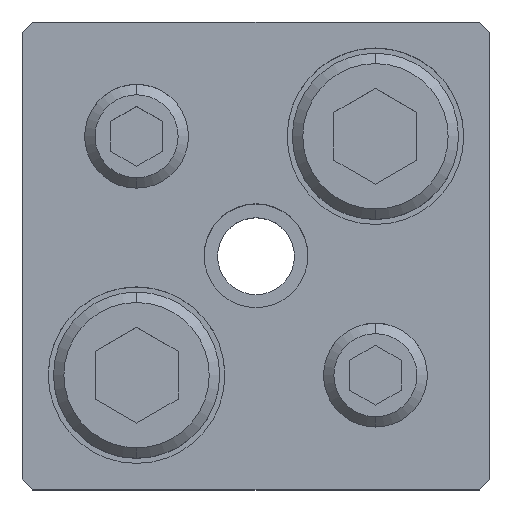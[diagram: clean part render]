
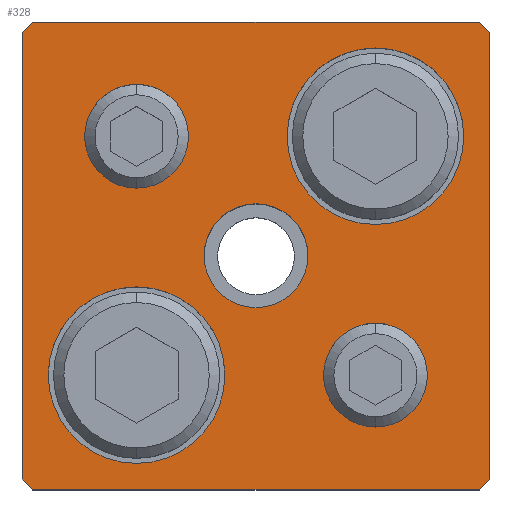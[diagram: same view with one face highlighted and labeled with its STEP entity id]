
A CAD part, top view. The second image highlights one B-rep face of the part: STEP entity #328.
In plain terms, the highlighted planar face has unit normal (0, 0, 1).
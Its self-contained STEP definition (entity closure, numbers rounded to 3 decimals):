
#119=PLANE('',#2702);
#192=FACE_BOUND('',#649,.T.);
#193=FACE_BOUND('',#650,.T.);
#194=FACE_BOUND('',#651,.T.);
#195=FACE_BOUND('',#652,.T.);
#196=FACE_BOUND('',#653,.T.);
#197=FACE_BOUND('',#654,.T.);
#328=ADVANCED_FACE('',(#192,#193,#194,#195,#196,#197),#119,.T.);
#649=EDGE_LOOP('',(#1071,#1072,#1073,#1074,#1075,#1076,#1077,#1078));
#650=EDGE_LOOP('',(#1079,#1080));
#651=EDGE_LOOP('',(#1081,#1082));
#652=EDGE_LOOP('',(#1083,#1084));
#653=EDGE_LOOP('',(#1085,#1086));
#654=EDGE_LOOP('',(#1087,#1088));
#833=CIRCLE('',#2678,5.);
#835=CIRCLE('',#2681,5.);
#837=CIRCLE('',#2684,5.);
#839=CIRCLE('',#2687,5.);
#845=CIRCLE('',#2696,8.5);
#846=CIRCLE('',#2697,8.5);
#847=CIRCLE('',#2698,8.5);
#848=CIRCLE('',#2699,8.5);
#849=CIRCLE('',#2700,5.);
#850=CIRCLE('',#2701,5.);
#1071=ORIENTED_EDGE('',*,*,#1923,.T.);
#1072=ORIENTED_EDGE('',*,*,#1924,.T.);
#1073=ORIENTED_EDGE('',*,*,#1925,.T.);
#1074=ORIENTED_EDGE('',*,*,#1926,.T.);
#1075=ORIENTED_EDGE('',*,*,#1927,.T.);
#1076=ORIENTED_EDGE('',*,*,#1928,.T.);
#1077=ORIENTED_EDGE('',*,*,#1929,.T.);
#1078=ORIENTED_EDGE('',*,*,#1930,.T.);
#1079=ORIENTED_EDGE('',*,*,#1931,.F.);
#1080=ORIENTED_EDGE('',*,*,#1932,.F.);
#1081=ORIENTED_EDGE('',*,*,#1933,.F.);
#1082=ORIENTED_EDGE('',*,*,#1934,.F.);
#1083=ORIENTED_EDGE('',*,*,#1915,.F.);
#1084=ORIENTED_EDGE('',*,*,#1911,.F.);
#1085=ORIENTED_EDGE('',*,*,#1909,.F.);
#1086=ORIENTED_EDGE('',*,*,#1905,.F.);
#1087=ORIENTED_EDGE('',*,*,#1935,.T.);
#1088=ORIENTED_EDGE('',*,*,#1936,.T.);
#1659=VERTEX_POINT('',#3859);
#1660=VERTEX_POINT('',#3860);
#1663=VERTEX_POINT('',#3871);
#1664=VERTEX_POINT('',#3872);
#1671=VERTEX_POINT('',#3895);
#1672=VERTEX_POINT('',#3896);
#1673=VERTEX_POINT('',#3898);
#1674=VERTEX_POINT('',#3900);
#1675=VERTEX_POINT('',#3902);
#1676=VERTEX_POINT('',#3904);
#1677=VERTEX_POINT('',#3906);
#1678=VERTEX_POINT('',#3908);
#1679=VERTEX_POINT('',#3911);
#1680=VERTEX_POINT('',#3912);
#1681=VERTEX_POINT('',#3915);
#1682=VERTEX_POINT('',#3916);
#1683=VERTEX_POINT('',#3919);
#1684=VERTEX_POINT('',#3920);
#1905=EDGE_CURVE('',#1659,#1660,#833,.T.);
#1909=EDGE_CURVE('',#1660,#1659,#835,.T.);
#1911=EDGE_CURVE('',#1663,#1664,#837,.T.);
#1915=EDGE_CURVE('',#1664,#1663,#839,.T.);
#1923=EDGE_CURVE('',#1671,#1672,#2217,.T.);
#1924=EDGE_CURVE('',#1672,#1673,#2218,.T.);
#1925=EDGE_CURVE('',#1673,#1674,#2219,.T.);
#1926=EDGE_CURVE('',#1674,#1675,#2220,.T.);
#1927=EDGE_CURVE('',#1675,#1676,#2221,.T.);
#1928=EDGE_CURVE('',#1676,#1677,#2222,.T.);
#1929=EDGE_CURVE('',#1677,#1678,#2223,.T.);
#1930=EDGE_CURVE('',#1678,#1671,#2224,.T.);
#1931=EDGE_CURVE('',#1679,#1680,#845,.T.);
#1932=EDGE_CURVE('',#1680,#1679,#846,.T.);
#1933=EDGE_CURVE('',#1681,#1682,#847,.T.);
#1934=EDGE_CURVE('',#1682,#1681,#848,.T.);
#1935=EDGE_CURVE('',#1683,#1684,#849,.T.);
#1936=EDGE_CURVE('',#1684,#1683,#850,.T.);
#2217=LINE('',#3894,#2429);
#2218=LINE('',#3897,#2430);
#2219=LINE('',#3899,#2431);
#2220=LINE('',#3901,#2432);
#2221=LINE('',#3903,#2433);
#2222=LINE('',#3905,#2434);
#2223=LINE('',#3907,#2435);
#2224=LINE('',#3909,#2436);
#2429=VECTOR('',#3097,1.);
#2430=VECTOR('',#3098,1.);
#2431=VECTOR('',#3099,1.);
#2432=VECTOR('',#3100,1.);
#2433=VECTOR('',#3101,1.);
#2434=VECTOR('',#3102,1.);
#2435=VECTOR('',#3103,1.);
#2436=VECTOR('',#3104,1.);
#2678=AXIS2_PLACEMENT_3D('',#3858,#3055,#3056);
#2681=AXIS2_PLACEMENT_3D('',#3867,#3063,#3064);
#2684=AXIS2_PLACEMENT_3D('',#3870,#3069,#3070);
#2687=AXIS2_PLACEMENT_3D('',#3879,#3077,#3078);
#2696=AXIS2_PLACEMENT_3D('',#3910,#3105,#3106);
#2697=AXIS2_PLACEMENT_3D('',#3913,#3107,#3108);
#2698=AXIS2_PLACEMENT_3D('',#3914,#3109,#3110);
#2699=AXIS2_PLACEMENT_3D('',#3917,#3111,#3112);
#2700=AXIS2_PLACEMENT_3D('',#3918,#3113,#3114);
#2701=AXIS2_PLACEMENT_3D('',#3921,#3115,#3116);
#2702=AXIS2_PLACEMENT_3D('',#3922,#3117,#3118);
#3055=DIRECTION('',(0.,0.,1.));
#3056=DIRECTION('',(1.,0.,0.));
#3063=DIRECTION('',(0.,0.,1.));
#3064=DIRECTION('',(-1.,0.,0.));
#3069=DIRECTION('',(0.,0.,1.));
#3070=DIRECTION('',(1.,0.,0.));
#3077=DIRECTION('',(0.,0.,1.));
#3078=DIRECTION('',(-1.,0.,0.));
#3097=DIRECTION('',(1.,0.,0.));
#3098=DIRECTION('',(0.707,0.707,0.));
#3099=DIRECTION('',(0.,1.,0.));
#3100=DIRECTION('',(-0.707,0.707,0.));
#3101=DIRECTION('',(-1.,0.,0.));
#3102=DIRECTION('',(-0.707,-0.707,0.));
#3103=DIRECTION('',(0.,-1.,0.));
#3104=DIRECTION('',(0.707,-0.707,0.));
#3105=DIRECTION('',(0.,0.,1.));
#3106=DIRECTION('',(1.,0.,0.));
#3107=DIRECTION('',(0.,0.,1.));
#3108=DIRECTION('',(-1.,0.,0.));
#3109=DIRECTION('',(0.,0.,1.));
#3110=DIRECTION('',(1.,0.,0.));
#3111=DIRECTION('',(0.,0.,1.));
#3112=DIRECTION('',(-1.,0.,0.));
#3113=DIRECTION('',(0.,0.,-1.));
#3114=DIRECTION('',(-1.,0.,0.));
#3115=DIRECTION('',(0.,0.,-1.));
#3116=DIRECTION('',(1.,0.,0.));
#3117=DIRECTION('',(0.,0.,1.));
#3118=DIRECTION('',(-1.,0.,0.));
#3858=CARTESIAN_POINT('',(11.5,-11.5,35.));
#3859=CARTESIAN_POINT('',(11.5,-6.5,35.));
#3860=CARTESIAN_POINT('',(11.5,-16.5,35.));
#3867=CARTESIAN_POINT('',(11.5,-11.5,35.));
#3870=CARTESIAN_POINT('',(-11.5,11.5,35.));
#3871=CARTESIAN_POINT('',(-11.5,16.5,35.));
#3872=CARTESIAN_POINT('',(-11.5,6.5,35.));
#3879=CARTESIAN_POINT('',(-11.5,11.5,35.));
#3894=CARTESIAN_POINT('',(21.5,-22.5,35.));
#3895=CARTESIAN_POINT('',(-21.5,-22.5,35.));
#3896=CARTESIAN_POINT('',(21.5,-22.5,35.));
#3897=CARTESIAN_POINT('',(22.5,-21.5,35.));
#3898=CARTESIAN_POINT('',(22.5,-21.5,35.));
#3899=CARTESIAN_POINT('',(22.5,21.5,35.));
#3900=CARTESIAN_POINT('',(22.5,21.5,35.));
#3901=CARTESIAN_POINT('',(21.5,22.5,35.));
#3902=CARTESIAN_POINT('',(21.5,22.5,35.));
#3903=CARTESIAN_POINT('',(-21.5,22.5,35.));
#3904=CARTESIAN_POINT('',(-21.5,22.5,35.));
#3905=CARTESIAN_POINT('',(-22.5,21.5,35.));
#3906=CARTESIAN_POINT('',(-22.5,21.5,35.));
#3907=CARTESIAN_POINT('',(-22.5,-21.5,35.));
#3908=CARTESIAN_POINT('',(-22.5,-21.5,35.));
#3909=CARTESIAN_POINT('',(-21.5,-22.5,35.));
#3910=CARTESIAN_POINT('',(-11.5,-11.5,35.));
#3911=CARTESIAN_POINT('',(-11.5,-3.,35.));
#3912=CARTESIAN_POINT('',(-11.5,-20.,35.));
#3913=CARTESIAN_POINT('',(-11.5,-11.5,35.));
#3914=CARTESIAN_POINT('',(11.5,11.5,35.));
#3915=CARTESIAN_POINT('',(11.5,20.,35.));
#3916=CARTESIAN_POINT('',(11.5,3.,35.));
#3917=CARTESIAN_POINT('',(11.5,11.5,35.));
#3918=CARTESIAN_POINT('',(0.,0.,35.));
#3919=CARTESIAN_POINT('',(0.,5.,35.));
#3920=CARTESIAN_POINT('',(0.,-5.,35.));
#3921=CARTESIAN_POINT('',(0.,0.,35.));
#3922=CARTESIAN_POINT('',(-21.5,-22.5,35.));
